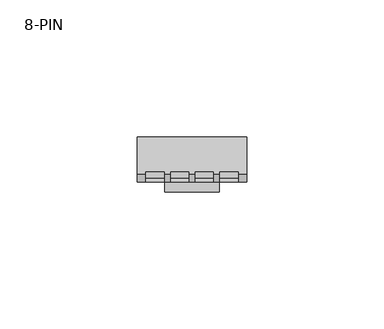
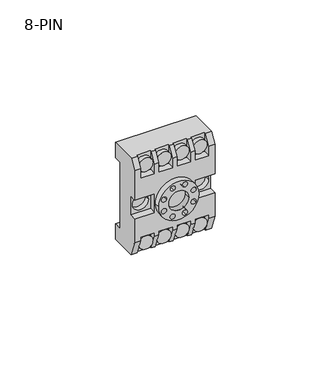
"""IFC4 building model written with IfcOpenShell, lengths in millimetres: proxy geometry, TDM_ЦОКОЛЬНЫЙ РАЗЪЕМ Р8Ц : 8-PIN."""

from ifc_helpers import new_model, si_unit, point, frame, frame_2d, origin, origin_2d, place, context, project, spatial, polyline, circle_curve, trimmed, segment, composite_curve, outline, extrude, source, transform, mapped, element, save
from ifc_brep_helpers import plane_surface, revolved_surface, advanced_brep


def proxy_8_pin_44236fb1(model_context):
    return source(origin(), model_context, "Body", "SolidModel", [
        extrude(outline(composite_curve([segment(trimmed(circle_curve(frame_2d((-20.5, -13.5)), 3.5), [point((-20.5, -17.0))], [point((-20.5, -10.0))], False, "CARTESIAN"), True, "CONTINUOUS"), segment(trimmed(circle_curve(frame_2d((-20.5, -13.5)), 3.5), [point((-20.5, -10.0))], [point((-20.5, -17.0))], False, "CARTESIAN"), True, "CONTINUOUS")], self_intersect=False)), frame((0.0, -4.9208345, 0.0), z_axis=(0.0, 1.0, 0.0), x_axis=(0.0, 0.0, 1.0)), (0.0, 0.0, 1.0), 2.213423),
        extrude(outline(composite_curve([segment(trimmed(circle_curve(frame_2d((-20.5, -4.5)), 3.5), [point((-20.5, -8.0))], [point((-20.5, -1.0))], False, "CARTESIAN"), True, "CONTINUOUS"), segment(trimmed(circle_curve(frame_2d((-20.5, -4.5)), 3.5), [point((-20.5, -1.0))], [point((-20.5, -8.0))], False, "CARTESIAN"), True, "CONTINUOUS")], self_intersect=False)), frame((0.0, -4.9208345, 0.0), z_axis=(0.0, 1.0, 0.0), x_axis=(0.0, 0.0, 1.0)), (0.0, 0.0, 1.0), 2.213423),
        extrude(outline(composite_curve([segment(trimmed(circle_curve(frame_2d((-20.5, 4.5)), 3.5), [point((-20.5, 1.0))], [point((-20.5, 8.0))], False, "CARTESIAN"), True, "CONTINUOUS"), segment(trimmed(circle_curve(frame_2d((-20.5, 4.5)), 3.5), [point((-20.5, 8.0))], [point((-20.5, 1.0))], False, "CARTESIAN"), True, "CONTINUOUS")], self_intersect=False)), frame((0.0, -4.9208345, 0.0), z_axis=(0.0, 1.0, 0.0), x_axis=(0.0, 0.0, 1.0)), (0.0, 0.0, 1.0), 2.213423),
        extrude(outline(composite_curve([segment(trimmed(circle_curve(frame_2d((-20.5, 13.5)), 3.5), [point((-20.5, 10.0))], [point((-20.5, 17.0))], False, "CARTESIAN"), True, "CONTINUOUS"), segment(trimmed(circle_curve(frame_2d((-20.5, 13.5)), 3.5), [point((-20.5, 17.0))], [point((-20.5, 10.0))], False, "CARTESIAN"), True, "CONTINUOUS")], self_intersect=False)), frame((0.0, -4.9208345, 0.0), z_axis=(0.0, 1.0, 0.0), x_axis=(0.0, 0.0, 1.0)), (0.0, 0.0, 1.0), 2.213423),
        extrude(outline(composite_curve([segment(trimmed(circle_curve(frame_2d((20.5, 13.5)), 3.5), [point((20.5, 17.0))], [point((20.5, 10.0))], False, "CARTESIAN"), True, "CONTINUOUS"), segment(trimmed(circle_curve(frame_2d((20.5, 13.5)), 3.5), [point((20.5, 10.0))], [point((20.5, 17.0))], False, "CARTESIAN"), True, "CONTINUOUS")], self_intersect=False)), frame((0.0, -4.9208345, 0.0), z_axis=(0.0, 1.0, 0.0), x_axis=(0.0, 0.0, 1.0)), (0.0, 0.0, 1.0), 2.213423),
        extrude(outline(composite_curve([segment(trimmed(circle_curve(frame_2d((20.5, 4.5)), 3.5), [point((20.5, 1.0))], [point((20.5, 8.0))], False, "CARTESIAN"), True, "CONTINUOUS"), segment(trimmed(circle_curve(frame_2d((20.5, 4.5)), 3.5), [point((20.5, 8.0))], [point((20.5, 1.0))], False, "CARTESIAN"), True, "CONTINUOUS")], self_intersect=False)), frame((0.0, -4.9208345, 0.0), z_axis=(0.0, 1.0, 0.0), x_axis=(0.0, 0.0, 1.0)), (0.0, 0.0, 1.0), 2.213423),
        extrude(outline(composite_curve([segment(trimmed(circle_curve(frame_2d((20.5, -4.5)), 3.5), [point((20.5, -8.0))], [point((20.5, -1.0))], False, "CARTESIAN"), True, "CONTINUOUS"), segment(trimmed(circle_curve(frame_2d((20.5, -4.5)), 3.5), [point((20.5, -1.0))], [point((20.5, -8.0))], False, "CARTESIAN"), True, "CONTINUOUS")], self_intersect=False)), frame((0.0, -4.9208345, 0.0), z_axis=(0.0, 1.0, 0.0), x_axis=(0.0, 0.0, 1.0)), (0.0, 0.0, 1.0), 2.213423),
        extrude(outline(composite_curve([segment(trimmed(circle_curve(frame_2d((20.5, -13.5)), 3.5), [point((20.5, -17.0))], [point((20.5, -10.0))], False, "CARTESIAN"), True, "CONTINUOUS"), segment(trimmed(circle_curve(frame_2d((20.5, -13.5)), 3.5), [point((20.5, -10.0))], [point((20.5, -17.0))], False, "CARTESIAN"), True, "CONTINUOUS")], self_intersect=False)), frame((0.0, -4.9208345, 0.0), z_axis=(0.0, 1.0, 0.0), x_axis=(0.0, 0.0, 1.0)), (0.0, 0.0, 1.0), 2.213423),
        extrude(outline(polyline([(-27.7075426, -6.7924574), (-27.7075426, -2.3822129), (-28.6834872, -1.4062683), (-28.6834872, 1.4062683), (-27.7075426, 2.3822129), (-27.7075426, 6.7924574), (-25.5, 9.0), (-25.5, 3.0021543), (-26.7640895, 1.7380648), (-26.7640895, -1.4251506), (-25.5, -2.6892401), (-25.5, -9.0), (-27.7075426, -6.7924574)])), frame((0.0, 6.0, 0.0), z_axis=(0.0, 1.0, 0.0), x_axis=(0.0, 0.0, 1.0)), (0.0, 0.0, 1.0), 4.0),
        advanced_brep(
        [(20.0, -3.6132487, 25.5), (20.0, -6.5, 20.5), (20.0, -6.5, 5.0), (20.0, -2.7074116, 5.0), (20.0, -2.7074116, -5.0), (20.0, -6.5, -5.0), (20.0, -6.5, -17.5), (20.0, -3.4290877, -25.5), (20.0, 10.0, -25.5), (20.0, 10.0, -17.5), (20.0, 6.0, -17.5), (20.0, 6.0, 17.5), (20.0, 10.0, 17.5), (20.0, 10.0, 25.5), (-20.0, -3.6132487, 25.5), (-20.0, 10.0, 25.5), (-20.0, 10.0, 17.5), (-20.0, 6.0, 17.5), (-20.0, 6.0, -17.5), (-20.0, 10.0, -17.5), (-20.0, 10.0, -25.5), (-20.0, -3.4290877, -25.5), (-20.0, -6.5, -17.5), (-20.0, -6.5, -5.0), (-20.0, -2.7074116, -5.0), (-20.0, -2.7074116, 5.0), (-20.0, -6.5, 5.0), (-20.0, -6.5, 20.5), (10.0, -6.5, -5.0), (10.0, -6.5, 5.0), (17.0, -6.5, 20.5), (17.0, -6.5, 15.5), (10.0, -6.5, 15.5), (10.0, -6.5, 20.5), (8.0, -6.5, 20.5), (8.0, -6.5, 15.5), (1.0, -6.5, 15.5), (1.0, -6.5, 20.5), (-1.0, -6.5, 20.5), (-1.0, -6.5, 15.5), (-8.0, -6.5, 15.5), (-8.0, -6.5, 20.5), (-10.0, -6.5, 20.5), (-10.0, -6.5, 15.5), (-17.0, -6.5, 15.5), (-17.0, -6.5, 20.5), (-10.0, -6.5, 5.0), (-10.0, -6.5, -5.0), (-17.0, -6.5, -17.5), (-17.0, -6.5, -15.5), (-10.0, -6.5, -15.5), (-10.0, -6.5, -17.5), (-8.0, -6.5, -17.5), (-8.0, -6.5, -15.5), (-1.0, -6.5, -15.5), (-1.0, -6.5, -17.5), (1.0, -6.5, -17.5), (1.0, -6.5, -15.5), (8.0, -6.5, -15.5), (8.0, -6.5, -17.5), (10.0, -6.5, -17.5), (10.0, -6.5, -15.5), (17.0, -6.5, -15.5), (17.0, -6.5, -17.5), (17.0, -3.4290877, -25.5), (17.0, -2.7074116, -25.5), (10.0, -2.7074116, -25.5), (10.0, -3.4290877, -25.5), (8.0, -3.4290877, -25.5), (8.0, -2.7074116, -25.5), (1.0, -2.7074116, -25.5), (1.0, -3.4290877, -25.5), (-1.0, -3.4290877, -25.5), (-1.0, -2.7074116, -25.5), (-8.0, -2.7074116, -25.5), (-8.0, -3.4290877, -25.5), (-10.0, -3.4290877, -25.5), (-10.0, -2.7074116, -25.5), (-17.0, -2.7074116, -25.5), (-17.0, -3.4290877, -25.5), (-17.0, -3.6132487, 25.5), (-17.0, -2.7074116, 25.5), (-10.0, -2.7074116, 25.5), (-10.0, -3.6132487, 25.5), (-8.0, -3.6132487, 25.5), (-8.0, -2.7074116, 25.5), (-1.0, -2.7074116, 25.5), (-1.0, -3.6132487, 25.5), (1.0, -3.6132487, 25.5), (1.0, -2.7074116, 25.5), (8.0, -2.7074116, 25.5), (8.0, -3.6132487, 25.5), (10.0, -3.6132487, 25.5), (10.0, -2.7074116, 25.5), (17.0, -2.7074116, 25.5), (17.0, -3.6132487, 25.5), (-17.0, -2.7074116, 15.5), (-10.0, -2.7074116, 15.5), (-8.0, -2.7074116, 15.5), (-1.0, -2.7074116, 15.5), (10.0, -2.7074116, 15.5), (17.0, -2.7074116, 15.5), (1.0, -2.7074116, 15.5), (8.0, -2.7074116, 15.5), (-10.0, -2.7074116, -15.5), (-17.0, -2.7074116, -15.5), (-1.0, -2.7074116, -15.5), (-8.0, -2.7074116, -15.5), (17.0, -2.7074116, -15.5), (10.0, -2.7074116, -15.5), (8.0, -2.7074116, -15.5), (1.0, -2.7074116, -15.5), (10.0, -2.7074116, 5.0), (10.0, -2.7074116, -5.0), (11.0, -2.7074116, 0.0), (19.0, -2.7074116, 0.0), (-10.0, -2.7074116, 5.0), (-10.0, -2.7074116, -5.0), (-11.0, -2.7074116, 0.0), (-19.0, -2.7074116, 0.0), (-19.0, 0.0, 0.0), (-11.0, 0.0, 0.0), (19.0, 0.0, 0.0), (11.0, 0.0, 0.0)],
        [
            (0, 1),
            (1, 2),
            (2, 3),
            (3, 4),
            (4, 5),
            (5, 6),
            (6, 7),
            (7, 8),
            (8, 9),
            (9, 10),
            (10, 11),
            (11, 12),
            (12, 13),
            (13, 0),
            (14, 15),
            (15, 16),
            (16, 17),
            (17, 18),
            (18, 19),
            (19, 20),
            (20, 21),
            (21, 22),
            (22, 23),
            (23, 24),
            (24, 25),
            (25, 26),
            (26, 27),
            (27, 14),
            (5, 28),
            (28, 29),
            (29, 2),
            (1, 30),
            (30, 31),
            (31, 32),
            (32, 33),
            (33, 34),
            (34, 35),
            (35, 36),
            (36, 37),
            (37, 38),
            (38, 39),
            (39, 40),
            (40, 41),
            (41, 42),
            (42, 43),
            (43, 44),
            (44, 45),
            (45, 27),
            (26, 46),
            (46, 47),
            (47, 23),
            (22, 48),
            (48, 49),
            (49, 50),
            (50, 51),
            (51, 52),
            (52, 53),
            (53, 54),
            (54, 55),
            (55, 56),
            (56, 57),
            (57, 58),
            (58, 59),
            (59, 60),
            (60, 61),
            (61, 62),
            (62, 63),
            (63, 6),
            (7, 64),
            (64, 65),
            (65, 66),
            (66, 67),
            (67, 68),
            (68, 69),
            (69, 70),
            (70, 71),
            (71, 72),
            (72, 73),
            (73, 74),
            (74, 75),
            (75, 76),
            (76, 77),
            (77, 78),
            (78, 79),
            (79, 21),
            (20, 8),
            (19, 9),
            (18, 10),
            (17, 11),
            (16, 12),
            (15, 13),
            (14, 80),
            (80, 81),
            (81, 82),
            (82, 83),
            (83, 84),
            (84, 85),
            (85, 86),
            (86, 87),
            (87, 88),
            (88, 89),
            (89, 90),
            (90, 91),
            (91, 92),
            (92, 93),
            (93, 94),
            (94, 95),
            (95, 0),
            (95, 30),
            (45, 80),
            (33, 92),
            (91, 34),
            (37, 88),
            (87, 38),
            (41, 84),
            (83, 42),
            (63, 64),
            (79, 48),
            (67, 60),
            (59, 68),
            (71, 56),
            (55, 72),
            (75, 52),
            (51, 76),
            (81, 96),
            (96, 97),
            (97, 82),
            (85, 98),
            (98, 99),
            (99, 86),
            (93, 100),
            (100, 101),
            (101, 94),
            (89, 102),
            (102, 103),
            (103, 90),
            (77, 104),
            (104, 105),
            (105, 78),
            (73, 106),
            (106, 107),
            (107, 74),
            (65, 108),
            (108, 109),
            (109, 66),
            (69, 110),
            (110, 111),
            (111, 70),
            (112, 113),
            (113, 4),
            (3, 112),
            (114, 115, circle_curve(frame((15.0, -2.7074116, 0.0), z_axis=(0.0, 1.0, 0.0), x_axis=(-1.0, 0.0, 0.0)), 4.0)),
            (115, 114, circle_curve(frame((15.0, -2.7074116, 0.0), z_axis=(0.0, 1.0, 0.0), x_axis=(-1.0, 0.0, 0.0)), 4.0)),
            (116, 25),
            (24, 117),
            (117, 116),
            (118, 119, circle_curve(frame((-15.0, -2.7074116, 0.0), z_axis=(0.0, 1.0, 0.0), x_axis=(1.0, 0.0, 0.0)), 4.0)),
            (119, 118, circle_curve(frame((-15.0, -2.7074116, 0.0), z_axis=(0.0, 1.0, 0.0), x_axis=(1.0, 0.0, 0.0)), 4.0)),
            (44, 96),
            (43, 97),
            (40, 98),
            (39, 99),
            (32, 100),
            (31, 101),
            (36, 102),
            (35, 103),
            (50, 104),
            (49, 105),
            (54, 106),
            (53, 107),
            (62, 108),
            (61, 109),
            (58, 110),
            (57, 111),
            (112, 29),
            (28, 113),
            (116, 46),
            (47, 117),
            (120, 121, circle_curve(frame((-15.0, 0.0, 0.0), z_axis=(0.0, -1.0, 0.0), x_axis=(1.0, 0.0, 0.0)), 4.0)),
            (121, 120, circle_curve(frame((-15.0, 0.0, 0.0), z_axis=(0.0, -1.0, 0.0), x_axis=(1.0, 0.0, 0.0)), 4.0)),
            (122, 123, circle_curve(frame((15.0, 0.0, 0.0), z_axis=(0.0, -1.0, 0.0), x_axis=(-1.0, 0.0, 0.0)), 4.0)),
            (123, 122, circle_curve(frame((15.0, 0.0, 0.0), z_axis=(0.0, -1.0, 0.0), x_axis=(-1.0, 0.0, 0.0)), 4.0)),
            (120, 119),
            (118, 121),
            (122, 115),
            (114, 123),
        ],
        [
            plane_surface(frame((20.0, -6.5, 20.5), z_axis=(1.0, 0.0, 0.0), x_axis=(0.0, -0.5000000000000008, -0.8660254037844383))),
            plane_surface(frame((-20.0, -6.5, 20.5), z_axis=(-1.0, 0.0, 0.0), x_axis=(0.0, 0.5000000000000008, 0.8660254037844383))),
            plane_surface(frame((20.0, -6.5, 20.5), z_axis=(0.0, -1.0, 0.0), x_axis=(-1.0, 0.0, 0.0))),
            plane_surface(frame((20.0, -3.4290877, -25.5), z_axis=(0.0, 0.0, -1.0), x_axis=(-1.0, 0.0, 0.0))),
            plane_surface(frame((20.0, 10.0, -25.5), z_axis=(0.0, 1.0, 0.0), x_axis=(-1.0, 0.0, 0.0))),
            plane_surface(frame((20.0, 10.0, -17.5), z_axis=(0.0, 0.0, 1.0), x_axis=(-1.0, 0.0, 0.0))),
            plane_surface(frame((20.0, 6.0, -17.5), z_axis=(0.0, 1.0, 0.0), x_axis=(-1.0, 0.0, 0.0))),
            plane_surface(frame((20.0, 6.0, 17.5), z_axis=(0.0, 0.0, -1.0), x_axis=(-1.0, 0.0, 0.0))),
            plane_surface(frame((20.0, 10.0, 17.5), z_axis=(0.0, 1.0, 0.0), x_axis=(-1.0, 0.0, 0.0))),
            plane_surface(frame((20.0, 10.0, 25.5), z_axis=(0.0, 0.0, 1.0), x_axis=(-1.0, 0.0, 0.0))),
            plane_surface(frame((20.0, -3.6132487, 25.5), z_axis=(0.0, -0.8660254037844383, 0.5000000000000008), x_axis=(-1.0, 0.0, 0.0))),
            plane_surface(frame((20.0, -6.5, -17.5), z_axis=(0.0, -0.9335804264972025, -0.3583679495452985), x_axis=(-1.0, 0.0, 0.0))),
            plane_surface(frame((-14.799239, -2.7074116, 25.5), z_axis=(0.0, -1.0, 0.0), x_axis=(1.0, 0.0, 0.0))),
            plane_surface(frame((-17.0, -6.5, 25.5), z_axis=(1.0, 0.0, 0.0), x_axis=(0.0, 1.0, 0.0))),
            plane_surface(frame((-17.0, -6.5, 15.5), z_axis=(0.0, 0.0, 1.0), x_axis=(0.0, 1.0, 0.0))),
            plane_surface(frame((-10.0, -6.5, 15.5), z_axis=(-1.0, 0.0, 0.0), x_axis=(0.0, 1.0, 0.0))),
            plane_surface(frame((-8.0, -6.5, 25.5), z_axis=(1.0, 0.0, 0.0), x_axis=(0.0, 1.0, 0.0))),
            plane_surface(frame((-8.0, -6.5, 15.5), z_axis=(0.0, 0.0, 1.0), x_axis=(0.0, 1.0, 0.0))),
            plane_surface(frame((-1.0, -6.5, 15.5), z_axis=(-1.0, 0.0, 0.0), x_axis=(0.0, 1.0, 0.0))),
            plane_surface(frame((10.0, -6.5, 25.5), z_axis=(1.0, 0.0, 0.0), x_axis=(0.0, 1.0, 0.0))),
            plane_surface(frame((10.0, -6.5, 15.5), z_axis=(0.0, 0.0, 1.0), x_axis=(0.0, 1.0, 0.0))),
            plane_surface(frame((17.0, -6.5, 15.5), z_axis=(-1.0, 0.0, 0.0), x_axis=(0.0, 1.0, 0.0))),
            plane_surface(frame((1.0, -6.5, 25.5), z_axis=(1.0, 0.0, 0.0), x_axis=(0.0, 1.0, 0.0))),
            plane_surface(frame((1.0, -6.5, 15.5), z_axis=(0.0, 0.0, 1.0), x_axis=(0.0, 1.0, 0.0))),
            plane_surface(frame((8.0, -6.5, 15.5), z_axis=(-1.0, 0.0, 0.0), x_axis=(0.0, 1.0, 0.0))),
            plane_surface(frame((-10.0, -6.5, -25.5), z_axis=(-1.0, 0.0, 0.0), x_axis=(0.0, 1.0, 0.0))),
            plane_surface(frame((-10.0, -6.5, -15.5), z_axis=(0.0, 0.0, -1.0), x_axis=(0.0, 1.0, 0.0))),
            plane_surface(frame((-17.0, -6.5, -15.5), z_axis=(1.0, 0.0, 0.0), x_axis=(0.0, 1.0, 0.0))),
            plane_surface(frame((-1.0, -6.5, -25.5), z_axis=(-1.0, 0.0, 0.0), x_axis=(0.0, 1.0, 0.0))),
            plane_surface(frame((-1.0, -6.5, -15.5), z_axis=(0.0, 0.0, -1.0), x_axis=(0.0, 1.0, 0.0))),
            plane_surface(frame((-8.0, -6.5, -15.5), z_axis=(1.0, 0.0, 0.0), x_axis=(0.0, 1.0, 0.0))),
            plane_surface(frame((17.0, -6.5, -25.5), z_axis=(-1.0, 0.0, 0.0), x_axis=(0.0, 1.0, 0.0))),
            plane_surface(frame((17.0, -6.5, -15.5), z_axis=(0.0, 0.0, -1.0), x_axis=(0.0, 1.0, 0.0))),
            plane_surface(frame((10.0, -6.5, -15.5), z_axis=(1.0, 0.0, 0.0), x_axis=(0.0, 1.0, 0.0))),
            plane_surface(frame((8.0, -6.5, -25.5), z_axis=(-1.0, 0.0, 0.0), x_axis=(0.0, 1.0, 0.0))),
            plane_surface(frame((8.0, -6.5, -15.5), z_axis=(0.0, 0.0, -1.0), x_axis=(0.0, 1.0, 0.0))),
            plane_surface(frame((1.0, -6.5, -15.5), z_axis=(1.0, 0.0, 0.0), x_axis=(0.0, 1.0, 0.0))),
            plane_surface(frame((10.0, -6.5, 5.0), z_axis=(1.0, 0.0, 0.0), x_axis=(0.0, 1.0, 0.0))),
            plane_surface(frame((10.0, -6.5, -5.0), z_axis=(0.0, 0.0, 1.0), x_axis=(0.0, 1.0, 0.0))),
            plane_surface(frame((20.0, -6.5, 5.0), z_axis=(0.0, 0.0, -1.0), x_axis=(0.0, 1.0, 0.0))),
            plane_surface(frame((-10.0, -6.5, 5.0), z_axis=(0.0, 0.0, -1.0), x_axis=(0.0, 1.0, 0.0))),
            plane_surface(frame((-20.0, -6.5, -5.0), z_axis=(0.0, 0.0, 1.0), x_axis=(0.0, 1.0, 0.0))),
            plane_surface(frame((-10.0, -6.5, -5.0), z_axis=(-1.0, 0.0, 0.0), x_axis=(0.0, 1.0, 0.0))),
            plane_surface(frame((-11.0, 0.0, 0.0), z_axis=(0.0, -1.0, 0.0), x_axis=(0.0, 0.0, -1.0))),
            revolved_surface(polyline([(-11.0, -2.7074116, 0.0), (-11.0, 0.0, 0.0)]), (-15.0, 0.0, 0.0), (0.0, -1.0, 0.0)),
            revolved_surface(polyline([(11.0, -2.7074116, 0.0), (11.0, 0.0, 0.0)]), (15.0, 0.0, 0.0), (0.0, -1.0, 0.0)),
        ],
        [
            (0, [[1, 2, 3, 4, 5, 6, 7, 8, 9, 10, 11, 12, 13, 14]]),
            (1, [[15, 16, 17, 18, 19, 20, 21, 22, 23, 24, 25, 26, 27, 28]]),
            (2, [[-6, 29, 30, 31, -2, 32, 33, 34, 35, 36, 37, 38, 39, 40, 41, 42, 43, 44, 45, 46, 47, 48, -27, 49, 50, 51, -23, 52, 53, 54, 55, 56, 57, 58, 59, 60, 61, 62, 63, 64, 65, 66, 67, 68]]),
            (3, [[-8, 69, 70, 71, 72, 73, 74, 75, 76, 77, 78, 79, 80, 81, 82, 83, 84, 85, -21, 86]]),
            (4, [[-9, -86, -20, 87]]),
            (5, [[-10, -87, -19, 88]]),
            (6, [[-11, -88, -18, 89]]),
            (7, [[-12, -89, -17, 90]]),
            (8, [[-13, -90, -16, 91]]),
            (9, [[-14, -91, -15, 92, 93, 94, 95, 96, 97, 98, 99, 100, 101, 102, 103, 104, 105, 106, 107, 108]]),
            (10, [[-1, -108, 109, -32]]),
            (10, [[-28, -48, 110, -92]]),
            (10, [[-36, 111, -104, 112]]),
            (10, [[-40, 113, -100, 114]]),
            (10, [[-44, 115, -96, 116]]),
            (11, [[-7, -68, 117, -69]]),
            (11, [[-22, -85, 118, -52]]),
            (11, [[-73, 119, -64, 120]]),
            (11, [[-77, 121, -60, 122]]),
            (11, [[-81, 123, -56, 124]]),
            (12, [[125, 126, 127, -94]]),
            (12, [[128, 129, 130, -98]]),
            (12, [[131, 132, 133, -106]]),
            (12, [[134, 135, 136, -102]]),
            (12, [[137, 138, 139, -83]]),
            (12, [[140, 141, 142, -79]]),
            (12, [[143, 144, 145, -71]]),
            (12, [[146, 147, 148, -75]]),
            (12, [[149, 150, -4, 151], [152, 153]]),
            (12, [[154, -25, 155, 156], [157, 158]]),
            (13, [[-125, -93, -110, -47, 159]]),
            (14, [[-126, -159, -46, 160]]),
            (15, [[-127, -160, -45, -116, -95]]),
            (16, [[-128, -97, -115, -43, 161]]),
            (17, [[-129, -161, -42, 162]]),
            (18, [[-130, -162, -41, -114, -99]]),
            (19, [[-131, -105, -111, -35, 163]]),
            (20, [[-132, -163, -34, 164]]),
            (21, [[-133, -164, -33, -109, -107]]),
            (22, [[-134, -101, -113, -39, 165]]),
            (23, [[-135, -165, -38, 166]]),
            (24, [[-136, -166, -37, -112, -103]]),
            (25, [[-137, -82, -124, -55, 167]]),
            (26, [[-138, -167, -54, 168]]),
            (27, [[-139, -168, -53, -118, -84]]),
            (28, [[-140, -78, -122, -59, 169]]),
            (29, [[-141, -169, -58, 170]]),
            (30, [[-142, -170, -57, -123, -80]]),
            (31, [[-143, -70, -117, -67, 171]]),
            (32, [[-144, -171, -66, 172]]),
            (33, [[-145, -172, -65, -119, -72]]),
            (34, [[-146, -74, -120, -63, 173]]),
            (35, [[-147, -173, -62, 174]]),
            (36, [[-148, -174, -61, -121, -76]]),
            (37, [[-149, 175, -30, 176]]),
            (38, [[-150, -176, -29, -5]]),
            (39, [[-151, -3, -31, -175]]),
            (40, [[-154, 177, -49, -26]]),
            (41, [[-155, -24, -51, 178]]),
            (42, [[-156, -178, -50, -177]]),
            (43, [[179, 180]]),
            (43, [[181, 182]]),
            (44, [[-179, 183, -157, 184]]),
            (44, [[-180, -184, -158, -183]]),
            (45, [[-181, 185, -152, 186]]),
            (45, [[-182, -186, -153, -185]]),
        ],
    ),
        extrude(outline(composite_curve([segment(trimmed(circle_curve(frame_2d((7.3252662, 0.0)), 2.3252662), [point((7.3252662, -2.3252662))], [point((7.3252662, 2.3252662))], False, "CARTESIAN"), True, "CONTINUOUS"), segment(trimmed(circle_curve(frame_2d((7.3252662, 0.0)), 2.3252662), [point((7.3252662, 2.3252662))], [point((7.3252662, -2.3252662))], False, "CARTESIAN"), True, "CONTINUOUS")], self_intersect=False)), frame((0.0, 6.0, 0.0), z_axis=(0.0, 1.0, 0.0), x_axis=(0.0, 0.0, 1.0)), (0.0, 0.0, 1.0), 4.0),
        extrude(outline(composite_curve([segment(trimmed(circle_curve(frame_2d((-7.3252662, 0.0)), 2.3252662), [point((-7.3252662, -2.3252662))], [point((-7.3252662, 2.3252662))], False, "CARTESIAN"), True, "CONTINUOUS"), segment(trimmed(circle_curve(frame_2d((-7.3252662, 0.0)), 2.3252662), [point((-7.3252662, 2.3252662))], [point((-7.3252662, -2.3252662))], False, "CARTESIAN"), True, "CONTINUOUS")], self_intersect=False)), frame((0.0, 6.0, 0.0), z_axis=(0.0, 1.0, 0.0), x_axis=(0.0, 0.0, 1.0)), (0.0, 0.0, 1.0), 4.0),
        extrude(outline(composite_curve([segment(trimmed(circle_curve(origin_2d(), 10.0), [point((0.0, -10.0))], [point((0.0, 10.0))], False, "CARTESIAN"), True, "CONTINUOUS"), segment(trimmed(circle_curve(origin_2d(), 10.0), [point((0.0, 10.0))], [point((0.0, -10.0))], False, "CARTESIAN"), True, "CONTINUOUS")], self_intersect=False), holes=[composite_curve([segment(trimmed(circle_curve(frame_2d((7.400889, -3.0277836)), 1.25), [point((6.2439633, -2.5544728))], [point((8.5578146, -3.5010944))], True, "CARTESIAN"), True, "CONTINUOUS"), segment(trimmed(circle_curve(frame_2d((7.400889, -3.0277836)), 1.25), [point((8.5578146, -3.5010944))], [point((6.2439633, -2.5544728))], True, "CARTESIAN"), True, "CONTINUOUS")], self_intersect=False), composite_curve([segment(trimmed(circle_curve(frame_2d((-3.0277836, -7.400889)), 1.25), [point((-2.5544728, -6.2439633))], [point((-3.5010944, -8.5578146))], True, "CARTESIAN"), True, "CONTINUOUS"), segment(trimmed(circle_curve(frame_2d((-3.0277836, -7.400889)), 1.25), [point((-3.5010944, -8.5578146))], [point((-2.5544728, -6.2439633))], True, "CARTESIAN"), True, "CONTINUOUS")], self_intersect=False), composite_curve([segment(trimmed(circle_curve(frame_2d((-7.400889, 3.0277836)), 1.25), [point((-6.2439633, 2.5544728))], [point((-8.5578146, 3.5010944))], True, "CARTESIAN"), True, "CONTINUOUS"), segment(trimmed(circle_curve(frame_2d((-7.400889, 3.0277836)), 1.25), [point((-8.5578146, 3.5010944))], [point((-6.2439633, 2.5544728))], True, "CARTESIAN"), True, "CONTINUOUS")], self_intersect=False), composite_curve([segment(trimmed(circle_curve(frame_2d((7.3741851, 3.0922525)), 1.25), [point((6.2214339, 2.6088638))], [point((8.5269363, 3.5756412))], True, "CARTESIAN"), True, "CONTINUOUS"), segment(trimmed(circle_curve(frame_2d((7.3741851, 3.0922525)), 1.25), [point((8.5269363, 3.5756412))], [point((6.2214339, 2.6088638))], True, "CARTESIAN"), True, "CONTINUOUS")], self_intersect=False), composite_curve([segment(trimmed(circle_curve(frame_2d((3.0277836, 7.400889)), 1.25), [point((2.5544728, 6.2439633))], [point((3.5010944, 8.5578146))], True, "CARTESIAN"), True, "CONTINUOUS"), segment(trimmed(circle_curve(frame_2d((3.0277836, 7.400889)), 1.25), [point((3.5010944, 8.5578146))], [point((2.5544728, 6.2439633))], True, "CARTESIAN"), True, "CONTINUOUS")], self_intersect=False), composite_curve([segment(trimmed(circle_curve(frame_2d((3.0922525, -7.3741851)), 1.25), [point((2.6088638, -6.2214339))], [point((3.5756412, -8.5269363))], True, "CARTESIAN"), True, "CONTINUOUS"), segment(trimmed(circle_curve(frame_2d((3.0922525, -7.3741851)), 1.25), [point((3.5756412, -8.5269363))], [point((2.6088638, -6.2214339))], True, "CARTESIAN"), True, "CONTINUOUS")], self_intersect=False), composite_curve([segment(trimmed(circle_curve(frame_2d((-3.0922525, 7.3741851)), 1.25), [point((-2.6088638, 6.2214339))], [point((-3.5756412, 8.5269363))], True, "CARTESIAN"), True, "CONTINUOUS"), segment(trimmed(circle_curve(frame_2d((-3.0922525, 7.3741851)), 1.25), [point((-3.5756412, 8.5269363))], [point((-2.6088638, 6.2214339))], True, "CARTESIAN"), True, "CONTINUOUS")], self_intersect=False), composite_curve([segment(trimmed(circle_curve(frame_2d((-7.3741851, -3.0922525)), 1.25), [point((-6.2214339, -2.6088638))], [point((-8.5269363, -3.5756412))], True, "CARTESIAN"), True, "CONTINUOUS"), segment(trimmed(circle_curve(frame_2d((-7.3741851, -3.0922525)), 1.25), [point((-8.5269363, -3.5756412))], [point((-6.2214339, -2.6088638))], True, "CARTESIAN"), True, "CONTINUOUS")], self_intersect=False), composite_curve([segment(trimmed(circle_curve(origin_2d(), 5.0), [point((0.0, -5.0))], [point((0.0, 5.0))], True, "CARTESIAN"), True, "CONTINUOUS"), segment(trimmed(circle_curve(origin_2d(), 5.0), [point((0.0, 5.0))], [point((0.0, -5.0))], True, "CARTESIAN"), True, "CONTINUOUS")], self_intersect=False)]), frame((0.0, -10.0, 0.0), z_axis=(0.0, 1.0, 0.0), x_axis=(0.0, 0.0, 1.0)), (0.0, 0.0, 1.0), 3.5),
        extrude(outline(composite_curve([segment(trimmed(circle_curve(frame_2d((-20.5, -13.5)), 3.5), [point((-20.5, -17.0))], [point((-20.5, -10.0))], False, "CARTESIAN"), True, "CONTINUOUS"), segment(trimmed(circle_curve(frame_2d((-20.5, -13.5)), 3.5), [point((-20.5, -10.0))], [point((-20.5, -17.0))], False, "CARTESIAN"), True, "CONTINUOUS")], self_intersect=False)), frame((0.0, -4.9208345, 0.0), z_axis=(0.0, 1.0, 0.0), x_axis=(0.0, 0.0, 1.0)), (0.0, 0.0, 1.0), 2.213423),
        extrude(outline(composite_curve([segment(trimmed(circle_curve(frame_2d((-20.5, -4.5)), 3.5), [point((-20.5, -8.0))], [point((-20.5, -1.0))], False, "CARTESIAN"), True, "CONTINUOUS"), segment(trimmed(circle_curve(frame_2d((-20.5, -4.5)), 3.5), [point((-20.5, -1.0))], [point((-20.5, -8.0))], False, "CARTESIAN"), True, "CONTINUOUS")], self_intersect=False)), frame((0.0, -4.9208345, 0.0), z_axis=(0.0, 1.0, 0.0), x_axis=(0.0, 0.0, 1.0)), (0.0, 0.0, 1.0), 2.213423),
        extrude(outline(composite_curve([segment(trimmed(circle_curve(frame_2d((-20.5, 4.5)), 3.5), [point((-20.5, 1.0))], [point((-20.5, 8.0))], False, "CARTESIAN"), True, "CONTINUOUS"), segment(trimmed(circle_curve(frame_2d((-20.5, 4.5)), 3.5), [point((-20.5, 8.0))], [point((-20.5, 1.0))], False, "CARTESIAN"), True, "CONTINUOUS")], self_intersect=False)), frame((0.0, -4.9208345, 0.0), z_axis=(0.0, 1.0, 0.0), x_axis=(0.0, 0.0, 1.0)), (0.0, 0.0, 1.0), 2.213423),
        extrude(outline(composite_curve([segment(trimmed(circle_curve(frame_2d((-20.5, 13.5)), 3.5), [point((-20.5, 10.0))], [point((-20.5, 17.0))], False, "CARTESIAN"), True, "CONTINUOUS"), segment(trimmed(circle_curve(frame_2d((-20.5, 13.5)), 3.5), [point((-20.5, 17.0))], [point((-20.5, 10.0))], False, "CARTESIAN"), True, "CONTINUOUS")], self_intersect=False)), frame((0.0, -4.9208345, 0.0), z_axis=(0.0, 1.0, 0.0), x_axis=(0.0, 0.0, 1.0)), (0.0, 0.0, 1.0), 2.213423),
        extrude(outline(composite_curve([segment(trimmed(circle_curve(frame_2d((20.5, 13.5)), 3.5), [point((20.5, 17.0))], [point((20.5, 10.0))], False, "CARTESIAN"), True, "CONTINUOUS"), segment(trimmed(circle_curve(frame_2d((20.5, 13.5)), 3.5), [point((20.5, 10.0))], [point((20.5, 17.0))], False, "CARTESIAN"), True, "CONTINUOUS")], self_intersect=False)), frame((0.0, -4.9208345, 0.0), z_axis=(0.0, 1.0, 0.0), x_axis=(0.0, 0.0, 1.0)), (0.0, 0.0, 1.0), 2.213423),
        extrude(outline(composite_curve([segment(trimmed(circle_curve(frame_2d((20.5, 4.5)), 3.5), [point((20.5, 1.0))], [point((20.5, 8.0))], False, "CARTESIAN"), True, "CONTINUOUS"), segment(trimmed(circle_curve(frame_2d((20.5, 4.5)), 3.5), [point((20.5, 8.0))], [point((20.5, 1.0))], False, "CARTESIAN"), True, "CONTINUOUS")], self_intersect=False)), frame((0.0, -4.9208345, 0.0), z_axis=(0.0, 1.0, 0.0), x_axis=(0.0, 0.0, 1.0)), (0.0, 0.0, 1.0), 2.213423),
        extrude(outline(composite_curve([segment(trimmed(circle_curve(frame_2d((20.5, -4.5)), 3.5), [point((20.5, -8.0))], [point((20.5, -1.0))], False, "CARTESIAN"), True, "CONTINUOUS"), segment(trimmed(circle_curve(frame_2d((20.5, -4.5)), 3.5), [point((20.5, -1.0))], [point((20.5, -8.0))], False, "CARTESIAN"), True, "CONTINUOUS")], self_intersect=False)), frame((0.0, -4.9208345, 0.0), z_axis=(0.0, 1.0, 0.0), x_axis=(0.0, 0.0, 1.0)), (0.0, 0.0, 1.0), 2.213423),
        extrude(outline(composite_curve([segment(trimmed(circle_curve(frame_2d((20.5, -13.5)), 3.5), [point((20.5, -17.0))], [point((20.5, -10.0))], False, "CARTESIAN"), True, "CONTINUOUS"), segment(trimmed(circle_curve(frame_2d((20.5, -13.5)), 3.5), [point((20.5, -10.0))], [point((20.5, -17.0))], False, "CARTESIAN"), True, "CONTINUOUS")], self_intersect=False)), frame((0.0, -4.9208345, 0.0), z_axis=(0.0, 1.0, 0.0), x_axis=(0.0, 0.0, 1.0)), (0.0, 0.0, 1.0), 2.213423),
        extrude(outline(polyline([(-27.7075426, -6.7924574), (-27.7075426, -2.3822129), (-28.6834872, -1.4062683), (-28.6834872, 1.4062683), (-27.7075426, 2.3822129), (-27.7075426, 6.7924574), (-25.5, 9.0), (-25.5, 3.0021543), (-26.7640895, 1.7380648), (-26.7640895, -1.4251506), (-25.5, -2.6892401), (-25.5, -9.0), (-27.7075426, -6.7924574)])), frame((0.0, 6.0, 0.0), z_axis=(0.0, 1.0, 0.0), x_axis=(0.0, 0.0, 1.0)), (0.0, 0.0, 1.0), 4.0),
        advanced_brep(
        [(20.0, -3.6132487, 25.5), (20.0, -6.5, 20.5), (20.0, -6.5, 5.0), (20.0, -2.7074116, 5.0), (20.0, -2.7074116, -5.0), (20.0, -6.5, -5.0), (20.0, -6.5, -17.5), (20.0, -3.4290877, -25.5), (20.0, 10.0, -25.5), (20.0, 10.0, -17.5), (20.0, 6.0, -17.5), (20.0, 6.0, 17.5), (20.0, 10.0, 17.5), (20.0, 10.0, 25.5), (-20.0, -3.6132487, 25.5), (-20.0, 10.0, 25.5), (-20.0, 10.0, 17.5), (-20.0, 6.0, 17.5), (-20.0, 6.0, -17.5), (-20.0, 10.0, -17.5), (-20.0, 10.0, -25.5), (-20.0, -3.4290877, -25.5), (-20.0, -6.5, -17.5), (-20.0, -6.5, -5.0), (-20.0, -2.7074116, -5.0), (-20.0, -2.7074116, 5.0), (-20.0, -6.5, 5.0), (-20.0, -6.5, 20.5), (10.0, -6.5, -5.0), (10.0, -6.5, 5.0), (17.0, -6.5, 20.5), (17.0, -6.5, 15.5), (10.0, -6.5, 15.5), (10.0, -6.5, 20.5), (8.0, -6.5, 20.5), (8.0, -6.5, 15.5), (1.0, -6.5, 15.5), (1.0, -6.5, 20.5), (-1.0, -6.5, 20.5), (-1.0, -6.5, 15.5), (-8.0, -6.5, 15.5), (-8.0, -6.5, 20.5), (-10.0, -6.5, 20.5), (-10.0, -6.5, 15.5), (-17.0, -6.5, 15.5), (-17.0, -6.5, 20.5), (-10.0, -6.5, 5.0), (-10.0, -6.5, -5.0), (-17.0, -6.5, -17.5), (-17.0, -6.5, -15.5), (-10.0, -6.5, -15.5), (-10.0, -6.5, -17.5), (-8.0, -6.5, -17.5), (-8.0, -6.5, -15.5), (-1.0, -6.5, -15.5), (-1.0, -6.5, -17.5), (1.0, -6.5, -17.5), (1.0, -6.5, -15.5), (8.0, -6.5, -15.5), (8.0, -6.5, -17.5), (10.0, -6.5, -17.5), (10.0, -6.5, -15.5), (17.0, -6.5, -15.5), (17.0, -6.5, -17.5), (17.0, -3.4290877, -25.5), (17.0, -2.7074116, -25.5), (10.0, -2.7074116, -25.5), (10.0, -3.4290877, -25.5), (8.0, -3.4290877, -25.5), (8.0, -2.7074116, -25.5), (1.0, -2.7074116, -25.5), (1.0, -3.4290877, -25.5), (-1.0, -3.4290877, -25.5), (-1.0, -2.7074116, -25.5), (-8.0, -2.7074116, -25.5), (-8.0, -3.4290877, -25.5), (-10.0, -3.4290877, -25.5), (-10.0, -2.7074116, -25.5), (-17.0, -2.7074116, -25.5), (-17.0, -3.4290877, -25.5), (-17.0, -3.6132487, 25.5), (-17.0, -2.7074116, 25.5), (-10.0, -2.7074116, 25.5), (-10.0, -3.6132487, 25.5), (-8.0, -3.6132487, 25.5), (-8.0, -2.7074116, 25.5), (-1.0, -2.7074116, 25.5), (-1.0, -3.6132487, 25.5), (1.0, -3.6132487, 25.5), (1.0, -2.7074116, 25.5), (8.0, -2.7074116, 25.5), (8.0, -3.6132487, 25.5), (10.0, -3.6132487, 25.5), (10.0, -2.7074116, 25.5), (17.0, -2.7074116, 25.5), (17.0, -3.6132487, 25.5), (-17.0, -2.7074116, 15.5), (-10.0, -2.7074116, 15.5), (-8.0, -2.7074116, 15.5), (-1.0, -2.7074116, 15.5), (10.0, -2.7074116, 15.5), (17.0, -2.7074116, 15.5), (1.0, -2.7074116, 15.5), (8.0, -2.7074116, 15.5), (-10.0, -2.7074116, -15.5), (-17.0, -2.7074116, -15.5), (-1.0, -2.7074116, -15.5), (-8.0, -2.7074116, -15.5), (17.0, -2.7074116, -15.5), (10.0, -2.7074116, -15.5), (8.0, -2.7074116, -15.5), (1.0, -2.7074116, -15.5), (10.0, -2.7074116, 5.0), (10.0, -2.7074116, -5.0), (11.0, -2.7074116, 0.0), (19.0, -2.7074116, 0.0), (-10.0, -2.7074116, 5.0), (-10.0, -2.7074116, -5.0), (-11.0, -2.7074116, 0.0), (-19.0, -2.7074116, 0.0), (-19.0, 0.0, 0.0), (-11.0, 0.0, 0.0), (19.0, 0.0, 0.0), (11.0, 0.0, 0.0)],
        [
            (0, 1),
            (1, 2),
            (2, 3),
            (3, 4),
            (4, 5),
            (5, 6),
            (6, 7),
            (7, 8),
            (8, 9),
            (9, 10),
            (10, 11),
            (11, 12),
            (12, 13),
            (13, 0),
            (14, 15),
            (15, 16),
            (16, 17),
            (17, 18),
            (18, 19),
            (19, 20),
            (20, 21),
            (21, 22),
            (22, 23),
            (23, 24),
            (24, 25),
            (25, 26),
            (26, 27),
            (27, 14),
            (5, 28),
            (28, 29),
            (29, 2),
            (1, 30),
            (30, 31),
            (31, 32),
            (32, 33),
            (33, 34),
            (34, 35),
            (35, 36),
            (36, 37),
            (37, 38),
            (38, 39),
            (39, 40),
            (40, 41),
            (41, 42),
            (42, 43),
            (43, 44),
            (44, 45),
            (45, 27),
            (26, 46),
            (46, 47),
            (47, 23),
            (22, 48),
            (48, 49),
            (49, 50),
            (50, 51),
            (51, 52),
            (52, 53),
            (53, 54),
            (54, 55),
            (55, 56),
            (56, 57),
            (57, 58),
            (58, 59),
            (59, 60),
            (60, 61),
            (61, 62),
            (62, 63),
            (63, 6),
            (7, 64),
            (64, 65),
            (65, 66),
            (66, 67),
            (67, 68),
            (68, 69),
            (69, 70),
            (70, 71),
            (71, 72),
            (72, 73),
            (73, 74),
            (74, 75),
            (75, 76),
            (76, 77),
            (77, 78),
            (78, 79),
            (79, 21),
            (20, 8),
            (19, 9),
            (18, 10),
            (17, 11),
            (16, 12),
            (15, 13),
            (14, 80),
            (80, 81),
            (81, 82),
            (82, 83),
            (83, 84),
            (84, 85),
            (85, 86),
            (86, 87),
            (87, 88),
            (88, 89),
            (89, 90),
            (90, 91),
            (91, 92),
            (92, 93),
            (93, 94),
            (94, 95),
            (95, 0),
            (95, 30),
            (45, 80),
            (33, 92),
            (91, 34),
            (37, 88),
            (87, 38),
            (41, 84),
            (83, 42),
            (63, 64),
            (79, 48),
            (67, 60),
            (59, 68),
            (71, 56),
            (55, 72),
            (75, 52),
            (51, 76),
            (81, 96),
            (96, 97),
            (97, 82),
            (85, 98),
            (98, 99),
            (99, 86),
            (93, 100),
            (100, 101),
            (101, 94),
            (89, 102),
            (102, 103),
            (103, 90),
            (77, 104),
            (104, 105),
            (105, 78),
            (73, 106),
            (106, 107),
            (107, 74),
            (65, 108),
            (108, 109),
            (109, 66),
            (69, 110),
            (110, 111),
            (111, 70),
            (112, 113),
            (113, 4),
            (3, 112),
            (114, 115, circle_curve(frame((15.0, -2.7074116, 0.0), z_axis=(0.0, 1.0, 0.0), x_axis=(-1.0, 0.0, 0.0)), 4.0)),
            (115, 114, circle_curve(frame((15.0, -2.7074116, 0.0), z_axis=(0.0, 1.0, 0.0), x_axis=(-1.0, 0.0, 0.0)), 4.0)),
            (116, 25),
            (24, 117),
            (117, 116),
            (118, 119, circle_curve(frame((-15.0, -2.7074116, 0.0), z_axis=(0.0, 1.0, 0.0), x_axis=(1.0, 0.0, 0.0)), 4.0)),
            (119, 118, circle_curve(frame((-15.0, -2.7074116, 0.0), z_axis=(0.0, 1.0, 0.0), x_axis=(1.0, 0.0, 0.0)), 4.0)),
            (44, 96),
            (43, 97),
            (40, 98),
            (39, 99),
            (32, 100),
            (31, 101),
            (36, 102),
            (35, 103),
            (50, 104),
            (49, 105),
            (54, 106),
            (53, 107),
            (62, 108),
            (61, 109),
            (58, 110),
            (57, 111),
            (112, 29),
            (28, 113),
            (116, 46),
            (47, 117),
            (120, 121, circle_curve(frame((-15.0, 0.0, 0.0), z_axis=(0.0, -1.0, 0.0), x_axis=(1.0, 0.0, 0.0)), 4.0)),
            (121, 120, circle_curve(frame((-15.0, 0.0, 0.0), z_axis=(0.0, -1.0, 0.0), x_axis=(1.0, 0.0, 0.0)), 4.0)),
            (122, 123, circle_curve(frame((15.0, 0.0, 0.0), z_axis=(0.0, -1.0, 0.0), x_axis=(-1.0, 0.0, 0.0)), 4.0)),
            (123, 122, circle_curve(frame((15.0, 0.0, 0.0), z_axis=(0.0, -1.0, 0.0), x_axis=(-1.0, 0.0, 0.0)), 4.0)),
            (120, 119),
            (118, 121),
            (122, 115),
            (114, 123),
        ],
        [
            plane_surface(frame((20.0, -6.5, 20.5), z_axis=(1.0, 0.0, 0.0), x_axis=(0.0, -0.5000000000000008, -0.8660254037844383))),
            plane_surface(frame((-20.0, -6.5, 20.5), z_axis=(-1.0, 0.0, 0.0), x_axis=(0.0, 0.5000000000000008, 0.8660254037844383))),
            plane_surface(frame((20.0, -6.5, 20.5), z_axis=(0.0, -1.0, 0.0), x_axis=(-1.0, 0.0, 0.0))),
            plane_surface(frame((20.0, -3.4290877, -25.5), z_axis=(0.0, 0.0, -1.0), x_axis=(-1.0, 0.0, 0.0))),
            plane_surface(frame((20.0, 10.0, -25.5), z_axis=(0.0, 1.0, 0.0), x_axis=(-1.0, 0.0, 0.0))),
            plane_surface(frame((20.0, 10.0, -17.5), z_axis=(0.0, 0.0, 1.0), x_axis=(-1.0, 0.0, 0.0))),
            plane_surface(frame((20.0, 6.0, -17.5), z_axis=(0.0, 1.0, 0.0), x_axis=(-1.0, 0.0, 0.0))),
            plane_surface(frame((20.0, 6.0, 17.5), z_axis=(0.0, 0.0, -1.0), x_axis=(-1.0, 0.0, 0.0))),
            plane_surface(frame((20.0, 10.0, 17.5), z_axis=(0.0, 1.0, 0.0), x_axis=(-1.0, 0.0, 0.0))),
            plane_surface(frame((20.0, 10.0, 25.5), z_axis=(0.0, 0.0, 1.0), x_axis=(-1.0, 0.0, 0.0))),
            plane_surface(frame((20.0, -3.6132487, 25.5), z_axis=(0.0, -0.8660254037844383, 0.5000000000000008), x_axis=(-1.0, 0.0, 0.0))),
            plane_surface(frame((20.0, -6.5, -17.5), z_axis=(0.0, -0.9335804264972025, -0.3583679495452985), x_axis=(-1.0, 0.0, 0.0))),
            plane_surface(frame((-14.799239, -2.7074116, 25.5), z_axis=(0.0, -1.0, 0.0), x_axis=(1.0, 0.0, 0.0))),
            plane_surface(frame((-17.0, -6.5, 25.5), z_axis=(1.0, 0.0, 0.0), x_axis=(0.0, 1.0, 0.0))),
            plane_surface(frame((-17.0, -6.5, 15.5), z_axis=(0.0, 0.0, 1.0), x_axis=(0.0, 1.0, 0.0))),
            plane_surface(frame((-10.0, -6.5, 15.5), z_axis=(-1.0, 0.0, 0.0), x_axis=(0.0, 1.0, 0.0))),
            plane_surface(frame((-8.0, -6.5, 25.5), z_axis=(1.0, 0.0, 0.0), x_axis=(0.0, 1.0, 0.0))),
            plane_surface(frame((-8.0, -6.5, 15.5), z_axis=(0.0, 0.0, 1.0), x_axis=(0.0, 1.0, 0.0))),
            plane_surface(frame((-1.0, -6.5, 15.5), z_axis=(-1.0, 0.0, 0.0), x_axis=(0.0, 1.0, 0.0))),
            plane_surface(frame((10.0, -6.5, 25.5), z_axis=(1.0, 0.0, 0.0), x_axis=(0.0, 1.0, 0.0))),
            plane_surface(frame((10.0, -6.5, 15.5), z_axis=(0.0, 0.0, 1.0), x_axis=(0.0, 1.0, 0.0))),
            plane_surface(frame((17.0, -6.5, 15.5), z_axis=(-1.0, 0.0, 0.0), x_axis=(0.0, 1.0, 0.0))),
            plane_surface(frame((1.0, -6.5, 25.5), z_axis=(1.0, 0.0, 0.0), x_axis=(0.0, 1.0, 0.0))),
            plane_surface(frame((1.0, -6.5, 15.5), z_axis=(0.0, 0.0, 1.0), x_axis=(0.0, 1.0, 0.0))),
            plane_surface(frame((8.0, -6.5, 15.5), z_axis=(-1.0, 0.0, 0.0), x_axis=(0.0, 1.0, 0.0))),
            plane_surface(frame((-10.0, -6.5, -25.5), z_axis=(-1.0, 0.0, 0.0), x_axis=(0.0, 1.0, 0.0))),
            plane_surface(frame((-10.0, -6.5, -15.5), z_axis=(0.0, 0.0, -1.0), x_axis=(0.0, 1.0, 0.0))),
            plane_surface(frame((-17.0, -6.5, -15.5), z_axis=(1.0, 0.0, 0.0), x_axis=(0.0, 1.0, 0.0))),
            plane_surface(frame((-1.0, -6.5, -25.5), z_axis=(-1.0, 0.0, 0.0), x_axis=(0.0, 1.0, 0.0))),
            plane_surface(frame((-1.0, -6.5, -15.5), z_axis=(0.0, 0.0, -1.0), x_axis=(0.0, 1.0, 0.0))),
            plane_surface(frame((-8.0, -6.5, -15.5), z_axis=(1.0, 0.0, 0.0), x_axis=(0.0, 1.0, 0.0))),
            plane_surface(frame((17.0, -6.5, -25.5), z_axis=(-1.0, 0.0, 0.0), x_axis=(0.0, 1.0, 0.0))),
            plane_surface(frame((17.0, -6.5, -15.5), z_axis=(0.0, 0.0, -1.0), x_axis=(0.0, 1.0, 0.0))),
            plane_surface(frame((10.0, -6.5, -15.5), z_axis=(1.0, 0.0, 0.0), x_axis=(0.0, 1.0, 0.0))),
            plane_surface(frame((8.0, -6.5, -25.5), z_axis=(-1.0, 0.0, 0.0), x_axis=(0.0, 1.0, 0.0))),
            plane_surface(frame((8.0, -6.5, -15.5), z_axis=(0.0, 0.0, -1.0), x_axis=(0.0, 1.0, 0.0))),
            plane_surface(frame((1.0, -6.5, -15.5), z_axis=(1.0, 0.0, 0.0), x_axis=(0.0, 1.0, 0.0))),
            plane_surface(frame((10.0, -6.5, 5.0), z_axis=(1.0, 0.0, 0.0), x_axis=(0.0, 1.0, 0.0))),
            plane_surface(frame((10.0, -6.5, -5.0), z_axis=(0.0, 0.0, 1.0), x_axis=(0.0, 1.0, 0.0))),
            plane_surface(frame((20.0, -6.5, 5.0), z_axis=(0.0, 0.0, -1.0), x_axis=(0.0, 1.0, 0.0))),
            plane_surface(frame((-10.0, -6.5, 5.0), z_axis=(0.0, 0.0, -1.0), x_axis=(0.0, 1.0, 0.0))),
            plane_surface(frame((-20.0, -6.5, -5.0), z_axis=(0.0, 0.0, 1.0), x_axis=(0.0, 1.0, 0.0))),
            plane_surface(frame((-10.0, -6.5, -5.0), z_axis=(-1.0, 0.0, 0.0), x_axis=(0.0, 1.0, 0.0))),
            plane_surface(frame((-11.0, 0.0, 0.0), z_axis=(0.0, -1.0, 0.0), x_axis=(0.0, 0.0, -1.0))),
            revolved_surface(polyline([(-11.0, -2.7074116, 0.0), (-11.0, 0.0, 0.0)]), (-15.0, 0.0, 0.0), (0.0, -1.0, 0.0)),
            revolved_surface(polyline([(11.0, -2.7074116, 0.0), (11.0, 0.0, 0.0)]), (15.0, 0.0, 0.0), (0.0, -1.0, 0.0)),
        ],
        [
            (0, [[1, 2, 3, 4, 5, 6, 7, 8, 9, 10, 11, 12, 13, 14]]),
            (1, [[15, 16, 17, 18, 19, 20, 21, 22, 23, 24, 25, 26, 27, 28]]),
            (2, [[-6, 29, 30, 31, -2, 32, 33, 34, 35, 36, 37, 38, 39, 40, 41, 42, 43, 44, 45, 46, 47, 48, -27, 49, 50, 51, -23, 52, 53, 54, 55, 56, 57, 58, 59, 60, 61, 62, 63, 64, 65, 66, 67, 68]]),
            (3, [[-8, 69, 70, 71, 72, 73, 74, 75, 76, 77, 78, 79, 80, 81, 82, 83, 84, 85, -21, 86]]),
            (4, [[-9, -86, -20, 87]]),
            (5, [[-10, -87, -19, 88]]),
            (6, [[-11, -88, -18, 89]]),
            (7, [[-12, -89, -17, 90]]),
            (8, [[-13, -90, -16, 91]]),
            (9, [[-14, -91, -15, 92, 93, 94, 95, 96, 97, 98, 99, 100, 101, 102, 103, 104, 105, 106, 107, 108]]),
            (10, [[-1, -108, 109, -32]]),
            (10, [[-28, -48, 110, -92]]),
            (10, [[-36, 111, -104, 112]]),
            (10, [[-40, 113, -100, 114]]),
            (10, [[-44, 115, -96, 116]]),
            (11, [[-7, -68, 117, -69]]),
            (11, [[-22, -85, 118, -52]]),
            (11, [[-73, 119, -64, 120]]),
            (11, [[-77, 121, -60, 122]]),
            (11, [[-81, 123, -56, 124]]),
            (12, [[125, 126, 127, -94]]),
            (12, [[128, 129, 130, -98]]),
            (12, [[131, 132, 133, -106]]),
            (12, [[134, 135, 136, -102]]),
            (12, [[137, 138, 139, -83]]),
            (12, [[140, 141, 142, -79]]),
            (12, [[143, 144, 145, -71]]),
            (12, [[146, 147, 148, -75]]),
            (12, [[149, 150, -4, 151], [152, 153]]),
            (12, [[154, -25, 155, 156], [157, 158]]),
            (13, [[-125, -93, -110, -47, 159]]),
            (14, [[-126, -159, -46, 160]]),
            (15, [[-127, -160, -45, -116, -95]]),
            (16, [[-128, -97, -115, -43, 161]]),
            (17, [[-129, -161, -42, 162]]),
            (18, [[-130, -162, -41, -114, -99]]),
            (19, [[-131, -105, -111, -35, 163]]),
            (20, [[-132, -163, -34, 164]]),
            (21, [[-133, -164, -33, -109, -107]]),
            (22, [[-134, -101, -113, -39, 165]]),
            (23, [[-135, -165, -38, 166]]),
            (24, [[-136, -166, -37, -112, -103]]),
            (25, [[-137, -82, -124, -55, 167]]),
            (26, [[-138, -167, -54, 168]]),
            (27, [[-139, -168, -53, -118, -84]]),
            (28, [[-140, -78, -122, -59, 169]]),
            (29, [[-141, -169, -58, 170]]),
            (30, [[-142, -170, -57, -123, -80]]),
            (31, [[-143, -70, -117, -67, 171]]),
            (32, [[-144, -171, -66, 172]]),
            (33, [[-145, -172, -65, -119, -72]]),
            (34, [[-146, -74, -120, -63, 173]]),
            (35, [[-147, -173, -62, 174]]),
            (36, [[-148, -174, -61, -121, -76]]),
            (37, [[-149, 175, -30, 176]]),
            (38, [[-150, -176, -29, -5]]),
            (39, [[-151, -3, -31, -175]]),
            (40, [[-154, 177, -49, -26]]),
            (41, [[-155, -24, -51, 178]]),
            (42, [[-156, -178, -50, -177]]),
            (43, [[179, 180]]),
            (43, [[181, 182]]),
            (44, [[-179, 183, -157, 184]]),
            (44, [[-180, -184, -158, -183]]),
            (45, [[-181, 185, -152, 186]]),
            (45, [[-182, -186, -153, -185]]),
        ],
    ),
        extrude(outline(composite_curve([segment(trimmed(circle_curve(frame_2d((7.3252662, 0.0)), 2.3252662), [point((7.3252662, -2.3252662))], [point((7.3252662, 2.3252662))], False, "CARTESIAN"), True, "CONTINUOUS"), segment(trimmed(circle_curve(frame_2d((7.3252662, 0.0)), 2.3252662), [point((7.3252662, 2.3252662))], [point((7.3252662, -2.3252662))], False, "CARTESIAN"), True, "CONTINUOUS")], self_intersect=False)), frame((0.0, 6.0, 0.0), z_axis=(0.0, 1.0, 0.0), x_axis=(0.0, 0.0, 1.0)), (0.0, 0.0, 1.0), 4.0),
        extrude(outline(composite_curve([segment(trimmed(circle_curve(frame_2d((-7.3252662, 0.0)), 2.3252662), [point((-7.3252662, -2.3252662))], [point((-7.3252662, 2.3252662))], False, "CARTESIAN"), True, "CONTINUOUS"), segment(trimmed(circle_curve(frame_2d((-7.3252662, 0.0)), 2.3252662), [point((-7.3252662, 2.3252662))], [point((-7.3252662, -2.3252662))], False, "CARTESIAN"), True, "CONTINUOUS")], self_intersect=False)), frame((0.0, 6.0, 0.0), z_axis=(0.0, 1.0, 0.0), x_axis=(0.0, 0.0, 1.0)), (0.0, 0.0, 1.0), 4.0),
        extrude(outline(composite_curve([segment(trimmed(circle_curve(origin_2d(), 10.0), [point((0.0, -10.0))], [point((0.0, 10.0))], False, "CARTESIAN"), True, "CONTINUOUS"), segment(trimmed(circle_curve(origin_2d(), 10.0), [point((0.0, 10.0))], [point((0.0, -10.0))], False, "CARTESIAN"), True, "CONTINUOUS")], self_intersect=False), holes=[composite_curve([segment(trimmed(circle_curve(frame_2d((7.400889, -3.0277836)), 1.25), [point((6.2439633, -2.5544728))], [point((8.5578146, -3.5010944))], True, "CARTESIAN"), True, "CONTINUOUS"), segment(trimmed(circle_curve(frame_2d((7.400889, -3.0277836)), 1.25), [point((8.5578146, -3.5010944))], [point((6.2439633, -2.5544728))], True, "CARTESIAN"), True, "CONTINUOUS")], self_intersect=False), composite_curve([segment(trimmed(circle_curve(frame_2d((-3.0277836, -7.400889)), 1.25), [point((-2.5544728, -6.2439633))], [point((-3.5010944, -8.5578146))], True, "CARTESIAN"), True, "CONTINUOUS"), segment(trimmed(circle_curve(frame_2d((-3.0277836, -7.400889)), 1.25), [point((-3.5010944, -8.5578146))], [point((-2.5544728, -6.2439633))], True, "CARTESIAN"), True, "CONTINUOUS")], self_intersect=False), composite_curve([segment(trimmed(circle_curve(frame_2d((-7.400889, 3.0277836)), 1.25), [point((-6.2439633, 2.5544728))], [point((-8.5578146, 3.5010944))], True, "CARTESIAN"), True, "CONTINUOUS"), segment(trimmed(circle_curve(frame_2d((-7.400889, 3.0277836)), 1.25), [point((-8.5578146, 3.5010944))], [point((-6.2439633, 2.5544728))], True, "CARTESIAN"), True, "CONTINUOUS")], self_intersect=False), composite_curve([segment(trimmed(circle_curve(frame_2d((7.3741851, 3.0922525)), 1.25), [point((6.2214339, 2.6088638))], [point((8.5269363, 3.5756412))], True, "CARTESIAN"), True, "CONTINUOUS"), segment(trimmed(circle_curve(frame_2d((7.3741851, 3.0922525)), 1.25), [point((8.5269363, 3.5756412))], [point((6.2214339, 2.6088638))], True, "CARTESIAN"), True, "CONTINUOUS")], self_intersect=False), composite_curve([segment(trimmed(circle_curve(frame_2d((3.0277836, 7.400889)), 1.25), [point((2.5544728, 6.2439633))], [point((3.5010944, 8.5578146))], True, "CARTESIAN"), True, "CONTINUOUS"), segment(trimmed(circle_curve(frame_2d((3.0277836, 7.400889)), 1.25), [point((3.5010944, 8.5578146))], [point((2.5544728, 6.2439633))], True, "CARTESIAN"), True, "CONTINUOUS")], self_intersect=False), composite_curve([segment(trimmed(circle_curve(frame_2d((3.0922525, -7.3741851)), 1.25), [point((2.6088638, -6.2214339))], [point((3.5756412, -8.5269363))], True, "CARTESIAN"), True, "CONTINUOUS"), segment(trimmed(circle_curve(frame_2d((3.0922525, -7.3741851)), 1.25), [point((3.5756412, -8.5269363))], [point((2.6088638, -6.2214339))], True, "CARTESIAN"), True, "CONTINUOUS")], self_intersect=False), composite_curve([segment(trimmed(circle_curve(frame_2d((-3.0922525, 7.3741851)), 1.25), [point((-2.6088638, 6.2214339))], [point((-3.5756412, 8.5269363))], True, "CARTESIAN"), True, "CONTINUOUS"), segment(trimmed(circle_curve(frame_2d((-3.0922525, 7.3741851)), 1.25), [point((-3.5756412, 8.5269363))], [point((-2.6088638, 6.2214339))], True, "CARTESIAN"), True, "CONTINUOUS")], self_intersect=False), composite_curve([segment(trimmed(circle_curve(frame_2d((-7.3741851, -3.0922525)), 1.25), [point((-6.2214339, -2.6088638))], [point((-8.5269363, -3.5756412))], True, "CARTESIAN"), True, "CONTINUOUS"), segment(trimmed(circle_curve(frame_2d((-7.3741851, -3.0922525)), 1.25), [point((-8.5269363, -3.5756412))], [point((-6.2214339, -2.6088638))], True, "CARTESIAN"), True, "CONTINUOUS")], self_intersect=False), composite_curve([segment(trimmed(circle_curve(origin_2d(), 5.0), [point((0.0, -5.0))], [point((0.0, 5.0))], True, "CARTESIAN"), True, "CONTINUOUS"), segment(trimmed(circle_curve(origin_2d(), 5.0), [point((0.0, 5.0))], [point((0.0, -5.0))], True, "CARTESIAN"), True, "CONTINUOUS")], self_intersect=False)]), frame((0.0, -10.0, 0.0), z_axis=(0.0, 1.0, 0.0), x_axis=(0.0, 0.0, 1.0)), (0.0, 0.0, 1.0), 3.5),
    ])


if __name__ == "__main__":
    model = new_model("IFC4")
    model_context = context("Model", 3, world=origin())
    ifc_project = project(units=[si_unit("LENGTHUNIT", "METRE", prefix="MILLI")], contexts=[model_context])
    site = spatial("IfcSite", under=ifc_project)
    building = spatial("IfcBuilding", under=site)
    placement = place(None, origin())
    proxy_8_pin_shape = proxy_8_pin_44236fb1(model_context)
    element("IfcBuildingElementProxy", 1, Name="TDM_ЦОКОЛЬНЫЙ РАЗЪЕМ Р8Ц : 8-PIN", ObjectType="TDM_ЦОКОЛЬНЫЙ РАЗЪЕМ Р8Ц : 8-PIN", at=placement, inside=building, context=model_context, shape_type="MappedRepresentation", body=[
        mapped(proxy_8_pin_shape, transform((0.0, 0.0, 0.0), x_axis=(1.0, 0.0, 0.0), y_axis=(0.0, 1.0, 0.0), z_axis=(0.0, 0.0, 1.0))),
    ])
    save(model, "model.ifc")
